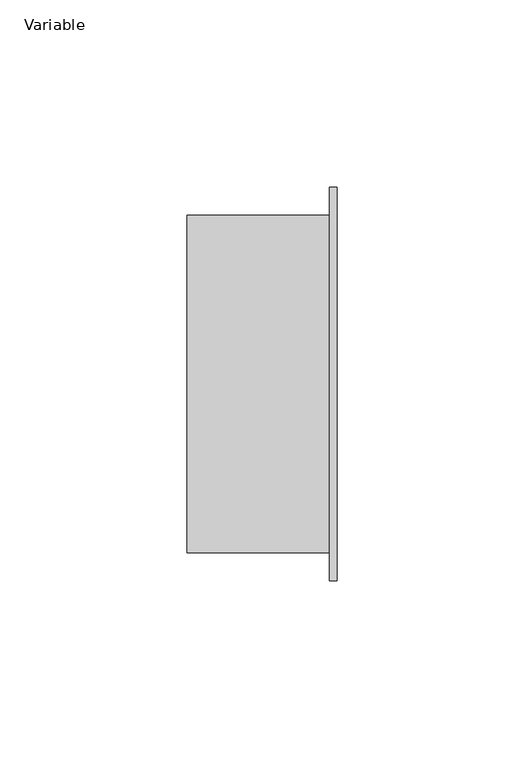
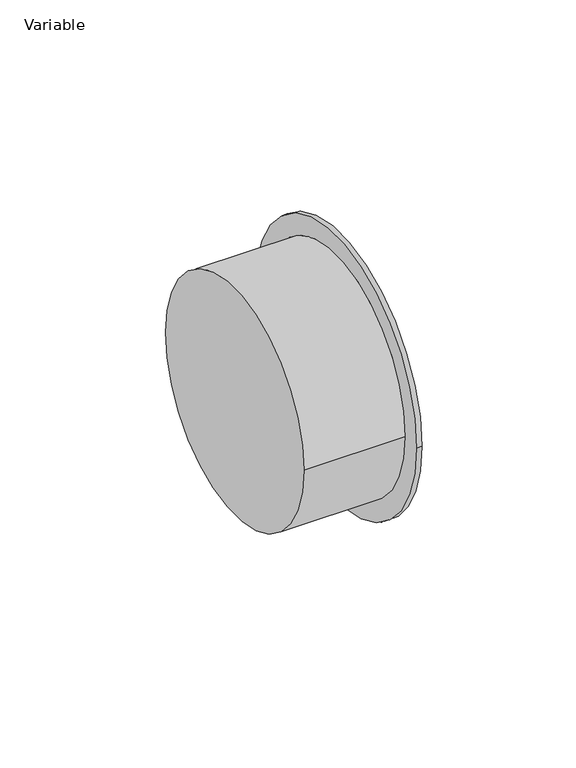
"""IFC4 building model written with IfcOpenShell, lengths in millimetres: pipe fitting geometry, AliaxisFR_Friaphon_Cap_FR : Variable."""

from ifc_helpers import new_model, si_unit, frame, origin, place, context, project, spatial, circle_curve, source, transform, mapped, element, save
from ifc_brep_helpers import plane_surface, cylinder_surface, advanced_brep


def variable_b181c17a(model_context):
    return source(origin(), model_context, "Body", "AdvancedBrep", [
        advanced_brep(
        [(13.0, -45.0, 0.0), (13.0, 45.0, 0.0), (53.0, -52.5, 0.0), (53.0, 52.5, 0.0), (51.0, -52.5, 0.0), (51.0, 52.5, 0.0), (51.0, -45.0, 0.0), (51.0, 45.0, 0.0)],
        [
            (0, 1, circle_curve(frame((13.0, 0.0, 0.0), z_axis=(-1.0, 0.0, 0.0), x_axis=(0.0, 1.0, 0.0)), 45.0)),
            (1, 0, circle_curve(frame((13.0, 0.0, 0.0), z_axis=(-1.0, 0.0, 0.0), x_axis=(0.0, 1.0, 0.0)), 45.0)),
            (2, 3, circle_curve(frame((53.0, 0.0, 0.0), z_axis=(1.0, 0.0, 0.0), x_axis=(0.0, 1.0, 0.0)), 52.5)),
            (3, 2, circle_curve(frame((53.0, 0.0, 0.0), z_axis=(1.0, 0.0, 0.0), x_axis=(0.0, 1.0, 0.0)), 52.5)),
            (4, 5, circle_curve(frame((51.0, 0.0, 0.0), z_axis=(-1.0, 0.0, 0.0), x_axis=(0.0, 1.0, 0.0)), 52.5)),
            (5, 4, circle_curve(frame((51.0, 0.0, 0.0), z_axis=(-1.0, 0.0, 0.0), x_axis=(0.0, 1.0, 0.0)), 52.5)),
            (6, 7, circle_curve(frame((51.0, 0.0, 0.0), z_axis=(1.0, 0.0, 0.0), x_axis=(0.0, 1.0, 0.0)), 45.0)),
            (7, 6, circle_curve(frame((51.0, 0.0, 0.0), z_axis=(1.0, 0.0, 0.0), x_axis=(0.0, 1.0, 0.0)), 45.0)),
            (2, 4),
            (5, 3),
            (1, 7),
            (6, 0),
        ],
        [
            plane_surface(frame((13.0, 45.0, 0.0), z_axis=(-1.0, 0.0, 0.0), x_axis=(0.0, 0.0, -1.0))),
            plane_surface(frame((53.0, 52.5, 0.0), z_axis=(1.0, 0.0, 0.0), x_axis=(0.0, 0.0, 1.0))),
            plane_surface(frame((51.0, 52.5, 0.0), z_axis=(-1.0, 0.0, 0.0), x_axis=(0.0, 0.0, -1.0))),
            cylinder_surface(frame((51.0, 0.0, 0.0), z_axis=(1.0, 0.0, 0.0), x_axis=(0.0, 1.0, 0.0)), 52.5),
            cylinder_surface(frame((13.0, 0.0, 0.0), z_axis=(1.0, 0.0, 0.0), x_axis=(0.0, 1.0, 0.0)), 45.0),
        ],
        [
            (0, [[1, 2]]),
            (1, [[3, 4]]),
            (2, [[5, 6], [7, 8]]),
            (3, [[-3, 9, -6, 10]]),
            (3, [[-4, -10, -5, -9]]),
            (4, [[-2, 11, -7, 12]]),
            (4, [[-1, -12, -8, -11]]),
        ],
    ),
    ])


if __name__ == "__main__":
    model = new_model("IFC4")
    model_context = context("Model", 3, world=origin())
    ifc_project = project(units=[si_unit("LENGTHUNIT", "METRE", prefix="MILLI")], contexts=[model_context])
    site = spatial("IfcSite", under=ifc_project)
    building = spatial("IfcBuilding", under=site)
    placement = place(None, origin())
    variable_shape = variable_b181c17a(model_context)
    element("IfcPipeFitting", 1, ObjectType="AliaxisFR_Friaphon_Cap_FR : Variable", at=placement, inside=building, context=model_context, shape_type="MappedRepresentation", body=[
        mapped(variable_shape, transform((0.0, 0.0, 0.0), x_axis=(1.0, 0.0, 0.0), y_axis=(0.0, 1.0, 0.0), z_axis=(0.0, 0.0, 1.0))),
    ])
    save(model, "model.ifc")
